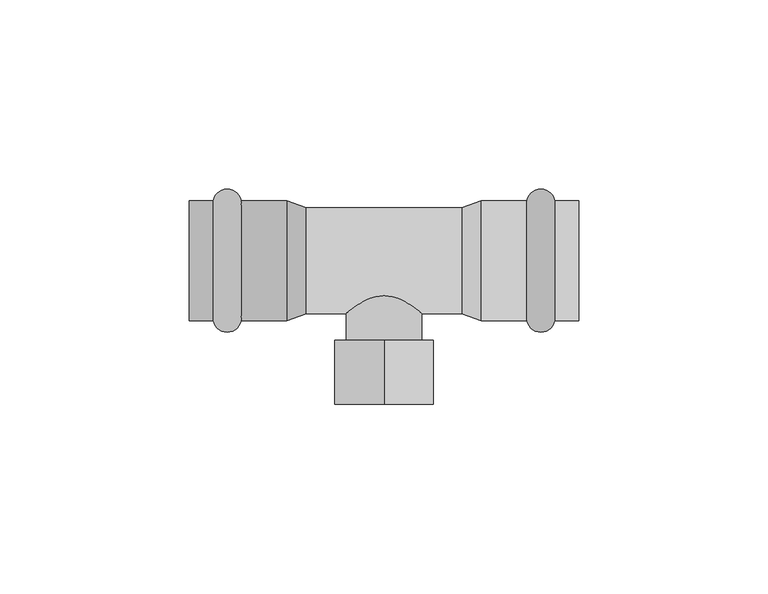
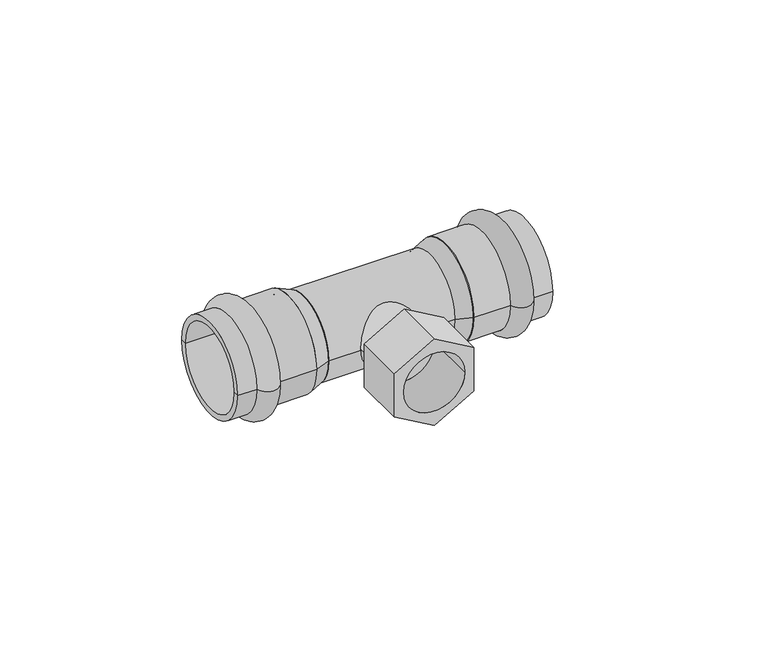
"""IFC4 building model written with IfcOpenShell, lengths in millimetres: pipe fitting geometry, VALTEC_VTi.932.I_Тройник с переходом на внутреннюю резьбу нержавеющая сталь : VTi.932.I."""

from ifc_helpers import new_model, si_unit, point, frame, origin, origin_2d, place, context, project, spatial, polyline, circle_curve, ellipse_curve, trimmed, segment, composite_curve, outline, extrude, source, transform, mapped, element, save
from ifc_brep_helpers import plane_surface, cylinder_surface, revolved_surface, advanced_brep


def pipe_fitting_56360a9f(model_context):
    return source(origin(), model_context, "Body", "SolidModel", [
        advanced_brep(
        [(45.1242346, 15.9, 0.0), (45.1242346, -15.9, 0.0), (37.7757654, -15.9, 0.0), (37.7757654, 15.9, 0.0), (51.5, 15.9, 0.0), (51.5, -15.9, 0.0), (51.5, 14.0, 0.0), (51.5, -14.0, 0.0), (25.75, 14.0, 0.0), (25.75, -14.0, 0.0), (25.75, 15.9, 0.0), (25.75, -15.9, 0.0)],
        [
            (0, 1, circle_curve(frame((45.1242346, 0.0, 0.0), z_axis=(-1.0, 0.0, 0.0), x_axis=(0.0, -1.0, 0.0)), 15.9)),
            (1, 2, circle_curve(frame((41.45, -15.15, 0.0), z_axis=(0.0, 0.0, -1.0), x_axis=(-1.0, 0.0, 0.0)), 3.75)),
            (2, 3, circle_curve(frame((37.7757654, 0.0, 0.0), z_axis=(1.0, 0.0, 0.0), x_axis=(0.0, -1.0, 0.0)), 15.9)),
            (3, 0, circle_curve(frame((41.45, 15.15, 0.0), z_axis=(0.0, 0.0, -1.0), x_axis=(-1.0, 0.0, 0.0)), 3.75)),
            (1, 0, circle_curve(frame((45.1242346, 0.0, 0.0), z_axis=(-1.0, 0.0, 0.0), x_axis=(0.0, -1.0, 0.0)), 15.9)),
            (3, 2, circle_curve(frame((37.7757654, 0.0, 0.0), z_axis=(1.0, 0.0, 0.0), x_axis=(0.0, -1.0, 0.0)), 15.9)),
            (4, 5, circle_curve(frame((51.5, 0.0, 0.0), z_axis=(-1.0, 0.0, 0.0), x_axis=(0.0, -1.0, 0.0)), 15.9)),
            (5, 1),
            (0, 4),
            (5, 4, circle_curve(frame((51.5, 0.0, 0.0), z_axis=(-1.0, 0.0, 0.0), x_axis=(0.0, -1.0, 0.0)), 15.9)),
            (6, 7, circle_curve(frame((51.5, 0.0, 0.0), z_axis=(-1.0, 0.0, 0.0), x_axis=(0.0, -1.0, 0.0)), 14.0)),
            (7, 5),
            (4, 6),
            (7, 6, circle_curve(frame((51.5, 0.0, 0.0), z_axis=(-1.0, 0.0, 0.0), x_axis=(0.0, -1.0, 0.0)), 14.0)),
            (8, 9, circle_curve(frame((25.75, 0.0, 0.0), z_axis=(-1.0, 0.0, 0.0), x_axis=(0.0, -1.0, 0.0)), 14.0)),
            (9, 7),
            (6, 8),
            (9, 8, circle_curve(frame((25.75, 0.0, 0.0), z_axis=(-1.0, 0.0, 0.0), x_axis=(0.0, -1.0, 0.0)), 14.0)),
            (10, 11, circle_curve(frame((25.75, 0.0, 0.0), z_axis=(-1.0, 0.0, 0.0), x_axis=(0.0, -1.0, 0.0)), 15.9)),
            (11, 9),
            (8, 10),
            (11, 10, circle_curve(frame((25.75, 0.0, 0.0), z_axis=(-1.0, 0.0, 0.0), x_axis=(0.0, -1.0, 0.0)), 15.9)),
            (2, 11),
            (10, 3),
        ],
        [
            revolved_surface(trimmed(ellipse_curve(frame((41.45, -15.15, 0.0), z_axis=(0.0, 0.0, 1.0), x_axis=(-1.0, 0.0, 0.0)), 3.75, 3.75), [point((37.7757654, -15.9, 0.0))], [point((45.1242346, -15.9, 0.0))], True, "CARTESIAN"), (55.0364426, 0.0, 0.0), (1.0, 0.0, 0.0)),
            cylinder_surface(frame((55.0364426, 0.0, 0.0), z_axis=(1.0, 0.0, 0.0), x_axis=(0.0, -1.0, 0.0)), 15.9),
            plane_surface(frame((51.5, 0.0, 0.0), z_axis=(1.0, 0.0, 0.0), x_axis=(0.0, -1.0, 0.0))),
            revolved_surface(polyline([(51.5, -14.0, 0.0), (25.75, -14.0, 0.0)]), (55.0364426, 0.0, 0.0), (1.0, 0.0, 0.0)),
            plane_surface(frame((25.75, 0.0, 0.0), z_axis=(-1.0, 0.0, 0.0), x_axis=(0.0, -1.0, 0.0))),
        ],
        [
            (0, [[1, 2, 3, 4]]),
            (0, [[5, -4, 6, -2]]),
            (1, [[7, 8, -1, 9]]),
            (1, [[10, -9, -5, -8]]),
            (2, [[11, 12, -7, 13]]),
            (2, [[14, -13, -10, -12]]),
            (3, [[15, 16, -11, 17]]),
            (3, [[18, -17, -14, -16]]),
            (4, [[19, 20, -15, 21]]),
            (4, [[22, -21, -18, -20]]),
            (1, [[-3, 23, -19, 24]]),
            (1, [[-6, -24, -22, -23]]),
        ],
    ),
        advanced_brep(
        [(-45.1242346, -15.9, 0.0), (-45.1242346, 15.9, 0.0), (-37.7757654, 15.9, 0.0), (-37.7757654, -15.9, 0.0), (-51.5, -15.9, 0.0), (-51.5, 15.9, 0.0), (-51.5, -14.0, 0.0), (-51.5, 14.0, 0.0), (-25.75, -14.0, 0.0), (-25.75, 14.0, 0.0), (-25.75, -15.9, 0.0), (-25.75, 15.9, 0.0)],
        [
            (0, 1, circle_curve(frame((-45.1242346, 0.0, 0.0), z_axis=(1.0, 0.0, 0.0), x_axis=(0.0, 1.0, 0.0)), 15.9)),
            (1, 2, circle_curve(frame((-41.45, 15.15, 0.0), z_axis=(0.0, 0.0, -1.0), x_axis=(1.0, 0.0, 0.0)), 3.75)),
            (2, 3, circle_curve(frame((-37.7757654, 0.0, 0.0), z_axis=(-1.0, 0.0, 0.0), x_axis=(0.0, 1.0, 0.0)), 15.9)),
            (3, 0, circle_curve(frame((-41.45, -15.15, 0.0), z_axis=(0.0, 0.0, -1.0), x_axis=(1.0, 0.0, 0.0)), 3.75)),
            (1, 0, circle_curve(frame((-45.1242346, 0.0, 0.0), z_axis=(1.0, 0.0, 0.0), x_axis=(0.0, 1.0, 0.0)), 15.9)),
            (3, 2, circle_curve(frame((-37.7757654, 0.0, 0.0), z_axis=(-1.0, 0.0, 0.0), x_axis=(0.0, 1.0, 0.0)), 15.9)),
            (4, 5, circle_curve(frame((-51.5, 0.0, 0.0), z_axis=(1.0, 0.0, 0.0), x_axis=(0.0, 1.0, 0.0)), 15.9)),
            (5, 1),
            (0, 4),
            (5, 4, circle_curve(frame((-51.5, 0.0, 0.0), z_axis=(1.0, 0.0, 0.0), x_axis=(0.0, 1.0, 0.0)), 15.9)),
            (6, 7, circle_curve(frame((-51.5, 0.0, 0.0), z_axis=(1.0, 0.0, 0.0), x_axis=(0.0, 1.0, 0.0)), 14.0)),
            (7, 5),
            (4, 6),
            (7, 6, circle_curve(frame((-51.5, 0.0, 0.0), z_axis=(1.0, 0.0, 0.0), x_axis=(0.0, 1.0, 0.0)), 14.0)),
            (8, 9, circle_curve(frame((-25.75, 0.0, 0.0), z_axis=(1.0, 0.0, 0.0), x_axis=(0.0, 1.0, 0.0)), 14.0)),
            (9, 7),
            (6, 8),
            (9, 8, circle_curve(frame((-25.75, 0.0, 0.0), z_axis=(1.0, 0.0, 0.0), x_axis=(0.0, 1.0, 0.0)), 14.0)),
            (10, 11, circle_curve(frame((-25.75, 0.0, 0.0), z_axis=(1.0, 0.0, 0.0), x_axis=(0.0, 1.0, 0.0)), 15.9)),
            (11, 9),
            (8, 10),
            (11, 10, circle_curve(frame((-25.75, 0.0, 0.0), z_axis=(1.0, 0.0, 0.0), x_axis=(0.0, 1.0, 0.0)), 15.9)),
            (2, 11),
            (10, 3),
        ],
        [
            revolved_surface(trimmed(ellipse_curve(frame((-41.45, 15.15, 0.0), z_axis=(0.0, 0.0, 1.0), x_axis=(1.0, 0.0, 0.0)), 3.75, 3.75), [point((-37.7757654, 15.9, 0.0))], [point((-45.1242346, 15.9, 0.0))], True, "CARTESIAN"), (-55.0364426, 0.0, 0.0), (-1.0, 0.0, 0.0)),
            cylinder_surface(frame((-55.0364426, 0.0, 0.0), z_axis=(-1.0, 0.0, 0.0), x_axis=(0.0, 1.0, 0.0)), 15.9),
            plane_surface(frame((-51.5, 0.0, 0.0), z_axis=(-1.0, 0.0, 0.0), x_axis=(0.0, 1.0, 0.0))),
            revolved_surface(polyline([(-51.5, 14.0, 0.0), (-25.75, 14.0, 0.0)]), (-55.0364426, 0.0, 0.0), (-1.0, 0.0, 0.0)),
            plane_surface(frame((-25.75, 0.0, 0.0), z_axis=(1.0, 0.0, 0.0), x_axis=(0.0, 1.0, 0.0))),
        ],
        [
            (0, [[1, 2, 3, 4]]),
            (0, [[5, -4, 6, -2]]),
            (1, [[7, 8, -1, 9]]),
            (1, [[10, -9, -5, -8]]),
            (2, [[11, 12, -7, 13]]),
            (2, [[14, -13, -10, -12]]),
            (3, [[15, 16, -11, 17]]),
            (3, [[18, -17, -14, -16]]),
            (4, [[19, 20, -15, 21]]),
            (4, [[22, -21, -18, -20]]),
            (1, [[-3, 23, -19, 24]]),
            (1, [[-6, -24, -22, -23]]),
        ],
    ),
        extrude(outline(polyline([(15.011107, 0.0), (7.5055535, -13.0), (-7.5055535, -13.0), (-15.011107, 0.0), (-7.5055535, 13.0), (7.5055535, 13.0), (15.011107, 0.0)]), holes=[composite_curve([segment(trimmed(circle_curve(origin_2d(), 10.0), [point((0.0, -10.0))], [point((0.0, 10.0))], True, "CARTESIAN"), True, "CONTINUOUS"), segment(trimmed(circle_curve(origin_2d(), 10.0), [point((0.0, 10.0))], [point((0.0, -10.0))], True, "CARTESIAN"), True, "CONTINUOUS")], self_intersect=False)]), frame((0.0, -38.0, 0.0), z_axis=(0.0, 1.0, 0.0), x_axis=(0.0, 0.0, 1.0)), (0.0, 0.0, 1.0), 17.0),
        extrude(outline(composite_curve([segment(trimmed(circle_curve(origin_2d(), 10.0), [point((0.0, -10.0))], [point((0.0, 10.0))], False, "CARTESIAN"), True, "CONTINUOUS"), segment(trimmed(circle_curve(origin_2d(), 10.0), [point((0.0, 10.0))], [point((0.0, -10.0))], False, "CARTESIAN"), True, "CONTINUOUS")], self_intersect=False)), frame((0.0, -21.0, 0.0), z_axis=(0.0, 1.0, 0.0), x_axis=(0.0, 0.0, 1.0)), (0.0, 0.0, 1.0), 21.0),
        extrude(outline(composite_curve([segment(trimmed(circle_curve(origin_2d(), 14.0), [point((-14.0, 0.0))], [point((14.0, 0.0))], False, "CARTESIAN"), True, "CONTINUOUS"), segment(trimmed(circle_curve(origin_2d(), 14.0), [point((14.0, 0.0))], [point((-14.0, 0.0))], False, "CARTESIAN"), True, "CONTINUOUS")], self_intersect=False)), frame((-20.6, 0.0, 0.0), z_axis=(1.0, 0.0, 0.0), x_axis=(0.0, 1.0, 0.0)), (0.0, 0.0, 1.0), 41.2),
        advanced_brep(
        [(25.75, -15.9, 0.0), (25.75, 15.9, 0.0), (20.6, -14.0, 0.0), (20.6, 14.0, 0.0)],
        [
            (0, 1, circle_curve(frame((25.75, 0.0, 0.0), z_axis=(1.0, 0.0, 0.0), x_axis=(0.0, -1.0, 0.0)), 15.9)),
            (1, 0, circle_curve(frame((25.75, 0.0, 0.0), z_axis=(1.0, 0.0, 0.0), x_axis=(0.0, 1.0, 0.0)), 15.9)),
            (2, 3, circle_curve(frame((20.6, 0.0, 0.0), z_axis=(-1.0, 0.0, 0.0), x_axis=(0.0, 1.0, 0.0)), 14.0)),
            (3, 2, circle_curve(frame((20.6, 0.0, 0.0), z_axis=(-1.0, 0.0, 0.0), x_axis=(0.0, -1.0, 0.0)), 14.0)),
            (3, 1),
            (0, 2),
        ],
        [
            plane_surface(frame((25.75, 0.0, 0.0), z_axis=(1.0, 0.0, 0.0), x_axis=(0.0, 0.0, 1.0))),
            plane_surface(frame((20.6, 0.0, 0.0), z_axis=(-1.0, 0.0, 0.0), x_axis=(0.0, 0.0, 1.0))),
            revolved_surface(polyline([(20.6, 13.999999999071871, 0.0), (25.75, 15.9, 0.0)]), (-17.3473684, 0.0, 0.0), (1.0, 0.0, 0.0)),
            revolved_surface(polyline([(20.6, -13.999999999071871, 0.0), (25.75, -15.9, 0.0)]), (-17.3473684, 0.0, 0.0), (1.0, 0.0, 0.0)),
        ],
        [
            (0, [[1, 2]]),
            (1, [[3, 4]]),
            (2, [[-4, 5, -1, 6]]),
            (3, [[-3, -6, -2, -5]]),
        ],
    ),
        advanced_brep(
        [(-25.75, -15.9, 0.0), (-25.75, 15.9, 0.0), (-20.6, -14.0, 0.0), (-20.6, 14.0, 0.0)],
        [
            (0, 1, circle_curve(frame((-25.75, 0.0, 0.0), z_axis=(-1.0, 0.0, 0.0), x_axis=(0.0, -1.0, 0.0)), 15.9)),
            (1, 0, circle_curve(frame((-25.75, 0.0, 0.0), z_axis=(-1.0, 0.0, 0.0), x_axis=(0.0, 1.0, 0.0)), 15.9)),
            (2, 3, circle_curve(frame((-20.6, 0.0, 0.0), z_axis=(1.0, 0.0, 0.0), x_axis=(0.0, 1.0, 0.0)), 14.0)),
            (3, 2, circle_curve(frame((-20.6, 0.0, 0.0), z_axis=(1.0, 0.0, 0.0), x_axis=(0.0, -1.0, 0.0)), 14.0)),
            (2, 0),
            (1, 3),
        ],
        [
            plane_surface(frame((-25.75, 0.0, 0.0), z_axis=(-1.0, 0.0, 0.0), x_axis=(0.0, 0.0, -1.0))),
            plane_surface(frame((-20.6, 0.0, 0.0), z_axis=(1.0, 0.0, 0.0), x_axis=(0.0, 0.0, -1.0))),
            revolved_surface(polyline([(-20.6, -13.999999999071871, 0.0), (-25.75, -15.9, 0.0)]), (17.3473684, 0.0, 0.0), (-1.0, 0.0, 0.0)),
            revolved_surface(polyline([(-20.6, 13.999999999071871, 0.0), (-25.75, 15.9, 0.0)]), (17.3473684, 0.0, 0.0), (-1.0, 0.0, 0.0)),
        ],
        [
            (0, [[1, 2]]),
            (1, [[3, 4]]),
            (2, [[-3, 5, -2, 6]]),
            (3, [[-4, -6, -1, -5]]),
        ],
    ),
    ])


if __name__ == "__main__":
    model = new_model("IFC4")
    model_context = context("Model", 3, world=origin())
    ifc_project = project(units=[si_unit("LENGTHUNIT", "METRE", prefix="MILLI")], contexts=[model_context])
    site = spatial("IfcSite", under=ifc_project)
    building = spatial("IfcBuilding", under=site)
    placement = place(None, origin())
    pipe_fitting_shape = pipe_fitting_56360a9f(model_context)
    element("IfcPipeFitting", 1, ObjectType="VALTEC_VTi.932.I_Тройник с переходом на внутреннюю резьбу нержавеющая сталь : VTi.932.I", at=placement, inside=building, context=model_context, shape_type="MappedRepresentation", body=[
        mapped(pipe_fitting_shape, transform((0.0, 0.0, 0.0), x_axis=(1.0, 0.0, 0.0), y_axis=(0.0, 1.0, 0.0), z_axis=(0.0, 0.0, 1.0))),
    ])
    save(model, "model.ifc")
